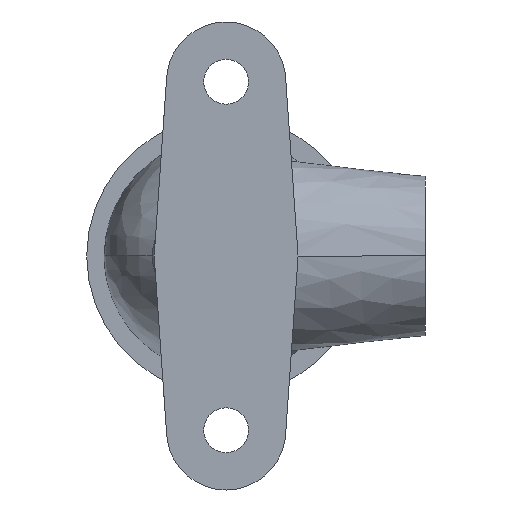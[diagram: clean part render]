
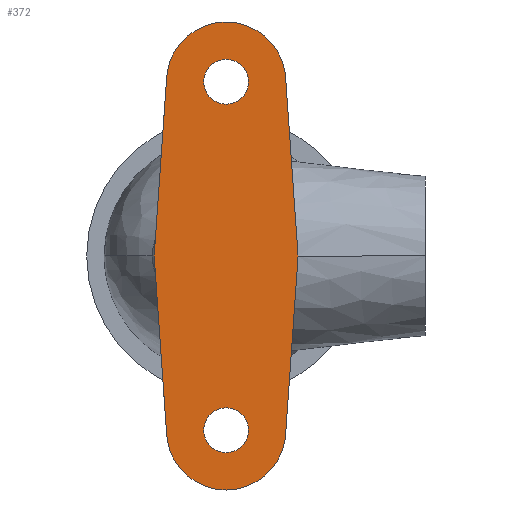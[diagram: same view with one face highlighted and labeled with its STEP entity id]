
A CAD part, front view. The second image highlights one B-rep face of the part: STEP entity #372.
In plain terms, the highlighted planar face has unit normal (0, -1, 0).
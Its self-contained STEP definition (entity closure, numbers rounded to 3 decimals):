
#176 = VERTEX_POINT ( 'NONE', #3205 ) ;
#184 = EDGE_CURVE ( 'NONE', #1488, #176, #3240, .T. ) ;
#360 = ORIENTED_EDGE ( 'NONE', *, *, #404, .F. ) ;
#367 = ORIENTED_EDGE ( 'NONE', *, *, #1422, .T. ) ;
#370 = EDGE_LOOP ( 'NONE', ( #367, #374 ) ) ;
#372 = ADVANCED_FACE ( 'NONE', ( #4185, #4241, #4240 ), #4235, .F. ) ;
#374 = ORIENTED_EDGE ( 'NONE', *, *, #392, .T. ) ;
#384 = EDGE_CURVE ( 'NONE', #387, #1488, #4281, .T. ) ;
#385 = EDGE_LOOP ( 'NONE', ( #391, #389, #386, #360, #399, #400, #396 ) ) ;
#386 = ORIENTED_EDGE ( 'NONE', *, *, #397, .F. ) ;
#387 = VERTEX_POINT ( 'NONE', #4277 ) ;
#388 = VERTEX_POINT ( 'NONE', #4276 ) ;
#389 = ORIENTED_EDGE ( 'NONE', *, *, #390, .F. ) ;
#390 = EDGE_CURVE ( 'NONE', #388, #387, #4251, .T. ) ;
#391 = ORIENTED_EDGE ( 'NONE', *, *, #384, .F. ) ;
#392 = EDGE_CURVE ( 'NONE', #1416, #1415, #4247, .T. ) ;
#393 = EDGE_CURVE ( 'NONE', #176, #395, #4242, .T. ) ;
#394 = VERTEX_POINT ( 'NONE', #4306 ) ;
#395 = VERTEX_POINT ( 'NONE', #4305 ) ;
#396 = ORIENTED_EDGE ( 'NONE', *, *, #184, .F. ) ;
#397 = EDGE_CURVE ( 'NONE', #394, #388, #4304, .T. ) ;
#398 = EDGE_CURVE ( 'NONE', #395, #403, #4300, .T. ) ;
#399 = ORIENTED_EDGE ( 'NONE', *, *, #398, .F. ) ;
#400 = ORIENTED_EDGE ( 'NONE', *, *, #393, .F. ) ;
#401 = ORIENTED_EDGE ( 'NONE', *, *, #1417, .T. ) ;
#402 = ORIENTED_EDGE ( 'NONE', *, *, #406, .T. ) ;
#403 = VERTEX_POINT ( 'NONE', #4296 ) ;
#404 = EDGE_CURVE ( 'NONE', #403, #394, #4295, .T. ) ;
#405 = EDGE_LOOP ( 'NONE', ( #401, #402 ) ) ;
#406 = EDGE_CURVE ( 'NONE', #1413, #1433, #4290, .T. ) ;
#1413 = VERTEX_POINT ( 'NONE', #5757 ) ;
#1415 = VERTEX_POINT ( 'NONE', #5756 ) ;
#1416 = VERTEX_POINT ( 'NONE', #5755 ) ;
#1417 = EDGE_CURVE ( 'NONE', #1433, #1413, #5754, .T. ) ;
#1422 = EDGE_CURVE ( 'NONE', #1415, #1416, #5449, .T. ) ;
#1433 = VERTEX_POINT ( 'NONE', #5799 ) ;
#1488 = VERTEX_POINT ( 'NONE', #5979 ) ;
#3205 = CARTESIAN_POINT ( 'NONE',  ( -6., -9., -17.5 ) ) ;
#3237 = DIRECTION ( 'NONE',  ( 0., 0., 1. ) ) ;
#3238 = DIRECTION ( 'NONE',  ( 0., 1., 0. ) ) ;
#3239 = AXIS2_PLACEMENT_3D ( 'NONE', #3246, #3238, #3237 ) ;
#3240 = CIRCLE ( 'NONE', #3239, 6. ) ;
#3246 = CARTESIAN_POINT ( 'NONE',  ( 0., -9., -17.5 ) ) ;
#4185 = FACE_BOUND ( 'NONE', #370, .T. ) ;
#4219 = CARTESIAN_POINT ( 'NONE',  ( 0., -9., -17.5 ) ) ;
#4231 = DIRECTION ( 'NONE',  ( 0., 0., 1. ) ) ;
#4232 = DIRECTION ( 'NONE',  ( 0., 1., 0. ) ) ;
#4233 = AXIS2_PLACEMENT_3D ( 'NONE', #4234, #4232, #4231 ) ;
#4234 = CARTESIAN_POINT ( 'NONE',  ( 0., -9., -17.5 ) ) ;
#4235 = PLANE ( 'NONE',  #4233 ) ;
#4240 = FACE_BOUND ( 'NONE', #405, .T. ) ;
#4241 = FACE_OUTER_BOUND ( 'NONE', #385, .T. ) ;
#4242 = LINE ( 'NONE', #4309, #4308 ) ;
#4243 = DIRECTION ( 'NONE',  ( 0., 0., 1. ) ) ;
#4244 = DIRECTION ( 'NONE',  ( 0., 1., 0. ) ) ;
#4245 = CARTESIAN_POINT ( 'NONE',  ( 0., -9., 17.5 ) ) ;
#4246 = AXIS2_PLACEMENT_3D ( 'NONE', #4245, #4244, #4243 ) ;
#4247 = CIRCLE ( 'NONE', #4246, 2.25 ) ;
#4248 = DIRECTION ( 'NONE',  ( -0.07, 0., -0.998 ) ) ;
#4249 = VECTOR ( 'NONE', #4248, 1000. ) ;
#4250 = CARTESIAN_POINT ( 'NONE',  ( 6., -9., -17.5 ) ) ;
#4251 = LINE ( 'NONE', #4250, #4249 ) ;
#4276 = CARTESIAN_POINT ( 'NONE',  ( 7.224, -9., 0. ) ) ;
#4277 = CARTESIAN_POINT ( 'NONE',  ( 6., -9., -17.5 ) ) ;
#4278 = DIRECTION ( 'NONE',  ( 0., 0., 1. ) ) ;
#4279 = DIRECTION ( 'NONE',  ( 0., 1., 0. ) ) ;
#4280 = AXIS2_PLACEMENT_3D ( 'NONE', #4219, #4279, #4278 ) ;
#4281 = CIRCLE ( 'NONE', #4280, 6. ) ;
#4286 = DIRECTION ( 'NONE',  ( 0., 0., 1. ) ) ;
#4287 = DIRECTION ( 'NONE',  ( 0., 1., 0. ) ) ;
#4288 = CARTESIAN_POINT ( 'NONE',  ( 0., -9., -17.5 ) ) ;
#4289 = AXIS2_PLACEMENT_3D ( 'NONE', #4288, #4287, #4286 ) ;
#4290 = CIRCLE ( 'NONE', #4289, 2.25 ) ;
#4291 = DIRECTION ( 'NONE',  ( 0., 0., -1. ) ) ;
#4292 = DIRECTION ( 'NONE',  ( 0., 1., 0. ) ) ;
#4293 = CARTESIAN_POINT ( 'NONE',  ( 0., -9., 17.5 ) ) ;
#4294 = AXIS2_PLACEMENT_3D ( 'NONE', #4293, #4292, #4291 ) ;
#4295 = CIRCLE ( 'NONE', #4294, 6. ) ;
#4296 = CARTESIAN_POINT ( 'NONE',  ( -6., -9., 17.5 ) ) ;
#4297 = DIRECTION ( 'NONE',  ( 0.07, 0., 0.998 ) ) ;
#4298 = VECTOR ( 'NONE', #4297, 1000. ) ;
#4299 = CARTESIAN_POINT ( 'NONE',  ( -6., -9., 17.5 ) ) ;
#4300 = LINE ( 'NONE', #4299, #4298 ) ;
#4301 = DIRECTION ( 'NONE',  ( 0.07, 0., -0.998 ) ) ;
#4302 = VECTOR ( 'NONE', #4301, 1000. ) ;
#4303 = CARTESIAN_POINT ( 'NONE',  ( 6., -9., 17.5 ) ) ;
#4304 = LINE ( 'NONE', #4303, #4302 ) ;
#4305 = CARTESIAN_POINT ( 'NONE',  ( -7.224, -9., 0. ) ) ;
#4306 = CARTESIAN_POINT ( 'NONE',  ( 6., -9., 17.5 ) ) ;
#4307 = DIRECTION ( 'NONE',  ( -0.07, 0., 0.998 ) ) ;
#4308 = VECTOR ( 'NONE', #4307, 1000. ) ;
#4309 = CARTESIAN_POINT ( 'NONE',  ( -6., -9., -17.5 ) ) ;
#5445 = DIRECTION ( 'NONE',  ( 0., 0., 1. ) ) ;
#5446 = DIRECTION ( 'NONE',  ( 0., 1., 0. ) ) ;
#5447 = CARTESIAN_POINT ( 'NONE',  ( 0., -9., 17.5 ) ) ;
#5448 = AXIS2_PLACEMENT_3D ( 'NONE', #5447, #5446, #5445 ) ;
#5449 = CIRCLE ( 'NONE', #5448, 2.25 ) ;
#5750 = DIRECTION ( 'NONE',  ( 0., 0., 1. ) ) ;
#5751 = DIRECTION ( 'NONE',  ( 0., 1., 0. ) ) ;
#5752 = CARTESIAN_POINT ( 'NONE',  ( 0., -9., -17.5 ) ) ;
#5753 = AXIS2_PLACEMENT_3D ( 'NONE', #5752, #5751, #5750 ) ;
#5754 = CIRCLE ( 'NONE', #5753, 2.25 ) ;
#5755 = CARTESIAN_POINT ( 'NONE',  ( 0., -9., 19.75 ) ) ;
#5756 = CARTESIAN_POINT ( 'NONE',  ( 0., -9., 15.25 ) ) ;
#5757 = CARTESIAN_POINT ( 'NONE',  ( 0., -9., -15.25 ) ) ;
#5799 = CARTESIAN_POINT ( 'NONE',  ( 0., -9., -19.75 ) ) ;
#5979 = CARTESIAN_POINT ( 'NONE',  ( 0., -9., -23.5 ) ) ;
